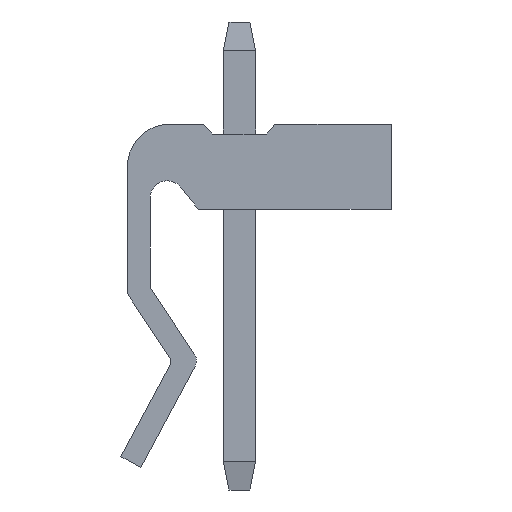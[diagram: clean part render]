
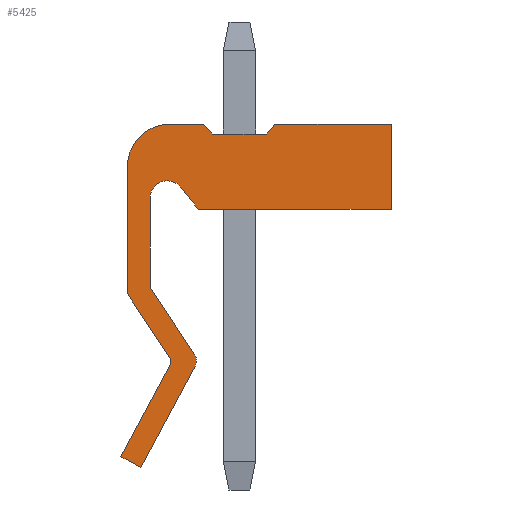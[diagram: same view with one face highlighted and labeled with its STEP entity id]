
A CAD part, front view. The second image highlights one B-rep face of the part: STEP entity #5425.
In plain terms, the highlighted planar face has unit normal (0, -1, 0).
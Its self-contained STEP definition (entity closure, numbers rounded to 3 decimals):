
#47=CIRCLE('',#5778,0.4);
#48=CIRCLE('',#5779,0.6);
#49=CIRCLE('',#5780,0.6);
#50=CIRCLE('',#5781,1.5);
#51=CIRCLE('',#5782,0.2);
#177=FACE_OUTER_BOUND('',#505,.T.);
#505=EDGE_LOOP('',(#3534,#3535,#3536,#3537,#3538,#3539,#3540,#3541,#3542,
#3543,#3544,#3545,#3546,#3547,#3548,#3549,#3550,#3551,#3552,#3553,#3554));
#895=LINE('',#7714,#1588);
#896=LINE('',#7716,#1589);
#897=LINE('',#7720,#1590);
#898=LINE('',#7722,#1591);
#899=LINE('',#7726,#1592);
#900=LINE('',#7730,#1593);
#901=LINE('',#7732,#1594);
#902=LINE('',#7734,#1595);
#903=LINE('',#7736,#1596);
#904=LINE('',#7738,#1597);
#905=LINE('',#7740,#1598);
#906=LINE('',#7742,#1599);
#907=LINE('',#7744,#1600);
#908=LINE('',#7748,#1601);
#909=LINE('',#7750,#1602);
#910=LINE('',#7753,#1603);
#1588=VECTOR('',#6250,10.);
#1589=VECTOR('',#6251,4.189);
#1590=VECTOR('',#6254,2.85);
#1591=VECTOR('',#6255,3.147);
#1592=VECTOR('',#6258,0.012);
#1593=VECTOR('',#6261,0.992);
#1594=VECTOR('',#6262,6.8);
#1595=VECTOR('',#6263,3.);
#1596=VECTOR('',#6264,4.08);
#1597=VECTOR('',#6265,0.461);
#1598=VECTOR('',#6266,1.9);
#1599=VECTOR('',#6267,0.461);
#1600=VECTOR('',#6268,1.22);
#1601=VECTOR('',#6271,4.487);
#1602=VECTOR('',#6272,2.732);
#1603=VECTOR('',#6275,3.831);
#2261=VERTEX_POINT('',#7712);
#2262=VERTEX_POINT('',#7713);
#2263=VERTEX_POINT('',#7715);
#2264=VERTEX_POINT('',#7717);
#2265=VERTEX_POINT('',#7719);
#2266=VERTEX_POINT('',#7721);
#2267=VERTEX_POINT('',#7723);
#2268=VERTEX_POINT('',#7725);
#2269=VERTEX_POINT('',#7727);
#2270=VERTEX_POINT('',#7729);
#2271=VERTEX_POINT('',#7731);
#2272=VERTEX_POINT('',#7733);
#2273=VERTEX_POINT('',#7735);
#2274=VERTEX_POINT('',#7737);
#2275=VERTEX_POINT('',#7739);
#2276=VERTEX_POINT('',#7741);
#2277=VERTEX_POINT('',#7743);
#2278=VERTEX_POINT('',#7745);
#2279=VERTEX_POINT('',#7747);
#2280=VERTEX_POINT('',#7749);
#2281=VERTEX_POINT('',#7751);
#2739=EDGE_CURVE('',#2261,#2262,#895,.T.);
#2740=EDGE_CURVE('',#2262,#2263,#896,.T.);
#2741=EDGE_CURVE('',#2264,#2263,#47,.T.);
#2742=EDGE_CURVE('',#2264,#2265,#897,.T.);
#2743=EDGE_CURVE('',#2265,#2266,#898,.T.);
#2744=EDGE_CURVE('',#2266,#2267,#48,.T.);
#2745=EDGE_CURVE('',#2267,#2268,#899,.T.);
#2746=EDGE_CURVE('',#2268,#2269,#49,.T.);
#2747=EDGE_CURVE('',#2269,#2270,#900,.T.);
#2748=EDGE_CURVE('',#2270,#2271,#901,.T.);
#2749=EDGE_CURVE('',#2271,#2272,#902,.T.);
#2750=EDGE_CURVE('',#2272,#2273,#903,.T.);
#2751=EDGE_CURVE('',#2273,#2274,#904,.T.);
#2752=EDGE_CURVE('',#2274,#2275,#905,.T.);
#2753=EDGE_CURVE('',#2275,#2276,#906,.T.);
#2754=EDGE_CURVE('',#2276,#2277,#907,.T.);
#2755=EDGE_CURVE('',#2278,#2277,#50,.T.);
#2756=EDGE_CURVE('',#2278,#2279,#908,.T.);
#2757=EDGE_CURVE('',#2279,#2280,#909,.T.);
#2758=EDGE_CURVE('',#2280,#2281,#51,.T.);
#2759=EDGE_CURVE('',#2281,#2261,#910,.T.);
#3534=ORIENTED_EDGE('',*,*,#2739,.T.);
#3535=ORIENTED_EDGE('',*,*,#2740,.T.);
#3536=ORIENTED_EDGE('',*,*,#2741,.F.);
#3537=ORIENTED_EDGE('',*,*,#2742,.T.);
#3538=ORIENTED_EDGE('',*,*,#2743,.T.);
#3539=ORIENTED_EDGE('',*,*,#2744,.T.);
#3540=ORIENTED_EDGE('',*,*,#2745,.T.);
#3541=ORIENTED_EDGE('',*,*,#2746,.T.);
#3542=ORIENTED_EDGE('',*,*,#2747,.T.);
#3543=ORIENTED_EDGE('',*,*,#2748,.T.);
#3544=ORIENTED_EDGE('',*,*,#2749,.T.);
#3545=ORIENTED_EDGE('',*,*,#2750,.T.);
#3546=ORIENTED_EDGE('',*,*,#2751,.T.);
#3547=ORIENTED_EDGE('',*,*,#2752,.T.);
#3548=ORIENTED_EDGE('',*,*,#2753,.T.);
#3549=ORIENTED_EDGE('',*,*,#2754,.T.);
#3550=ORIENTED_EDGE('',*,*,#2755,.F.);
#3551=ORIENTED_EDGE('',*,*,#2756,.T.);
#3552=ORIENTED_EDGE('',*,*,#2757,.T.);
#3553=ORIENTED_EDGE('',*,*,#2758,.T.);
#3554=ORIENTED_EDGE('',*,*,#2759,.T.);
#4943=PLANE('',#5777);
#5425=ADVANCED_FACE('',(#177),#4943,.T.);
#5777=AXIS2_PLACEMENT_3D('',#7711,#6248,#6249);
#5778=AXIS2_PLACEMENT_3D('',#7718,#6252,#6253);
#5779=AXIS2_PLACEMENT_3D('',#7724,#6256,#6257);
#5780=AXIS2_PLACEMENT_3D('',#7728,#6259,#6260);
#5781=AXIS2_PLACEMENT_3D('',#7746,#6269,#6270);
#5782=AXIS2_PLACEMENT_3D('',#7752,#6273,#6274);
#6248=DIRECTION('center_axis',(0.,-1.,0.));
#6249=DIRECTION('ref_axis',(0.,0.,-1.));
#6250=DIRECTION('',(0.881,0.,-0.473));
#6251=DIRECTION('',(0.473,0.,0.881));
#6252=DIRECTION('center_axis',(0.,1.,0.));
#6253=DIRECTION('ref_axis',(0.835,0.,0.55));
#6254=DIRECTION('',(-0.55,0.,0.835));
#6255=DIRECTION('',(0.,0.,1.));
#6256=DIRECTION('center_axis',(0.,1.,0.));
#6257=DIRECTION('ref_axis',(-1.,0.,0.));
#6258=DIRECTION('',(1.,0.,0.));
#6259=DIRECTION('center_axis',(0.,1.,0.));
#6260=DIRECTION('ref_axis',(0.,0.,
1.));
#6261=DIRECTION('',(0.625,0.,-0.781));
#6262=DIRECTION('',(1.,0.,0.));
#6263=DIRECTION('',(0.,0.,1.));
#6264=DIRECTION('',(-1.,0.,0.));
#6265=DIRECTION('',(-0.651,0.,-0.759));
#6266=DIRECTION('',(-1.,0.,0.));
#6267=DIRECTION('',(-0.651,0.,0.759));
#6268=DIRECTION('',(-1.,0.,0.));
#6269=DIRECTION('center_axis',(0.,1.,0.));
#6270=DIRECTION('ref_axis',(-1.,0.,0.));
#6271=DIRECTION('',(0.,0.,-1.));
#6272=DIRECTION('',(0.55,0.,-0.835));
#6273=DIRECTION('center_axis',(0.,1.,0.));
#6274=DIRECTION('ref_axis',(0.835,0.,0.55));
#6275=DIRECTION('',(-0.473,0.,-0.881));
#7711=CARTESIAN_POINT('Origin',(-13.67,-18.363,23.723));
#7712=CARTESIAN_POINT('',(-13.544,-18.363,18.152));
#7713=CARTESIAN_POINT('',(-12.839,-18.363,17.773));
#7714=CARTESIAN_POINT('',(-14.948,-18.363,18.906));
#7715=CARTESIAN_POINT('',(-10.925,-18.363,21.337));
#7716=CARTESIAN_POINT('',(-12.907,-18.363,17.647));
#7717=CARTESIAN_POINT('',(-10.943,-18.363,21.746));
#7718=CARTESIAN_POINT('Origin',(-11.277,-18.363,21.526));
#7719=CARTESIAN_POINT('',(-12.512,-18.363,24.126));
#7720=CARTESIAN_POINT('',(-10.943,-18.363,21.746));
#7721=CARTESIAN_POINT('',(-12.512,-18.363,27.273));
#7722=CARTESIAN_POINT('',(-12.512,-18.363,24.126));
#7723=CARTESIAN_POINT('',(-11.912,-18.363,27.873));
#7724=CARTESIAN_POINT('Origin',(-11.912,-18.363,27.273));
#7725=CARTESIAN_POINT('',(-11.9,-18.363,27.873));
#7726=CARTESIAN_POINT('',(-11.912,-18.363,27.873));
#7727=CARTESIAN_POINT('',(-11.432,-18.363,27.648));
#7728=CARTESIAN_POINT('Origin',(-11.9,-18.363,27.273));
#7729=CARTESIAN_POINT('',(-10.812,-18.363,26.873));
#7730=CARTESIAN_POINT('',(-11.432,-18.363,27.648));
#7731=CARTESIAN_POINT('',(-4.012,-18.363,26.873));
#7732=CARTESIAN_POINT('',(-10.812,-18.363,26.873));
#7733=CARTESIAN_POINT('',(-4.012,-18.363,29.873));
#7734=CARTESIAN_POINT('',(-4.012,-18.363,26.873));
#7735=CARTESIAN_POINT('',(-8.112,-18.363,29.873));
#7736=CARTESIAN_POINT('',(-4.012,-18.363,29.873));
#7737=CARTESIAN_POINT('',(-8.412,-18.363,29.523));
#7738=CARTESIAN_POINT('',(-8.112,-18.363,29.873));
#7739=CARTESIAN_POINT('',(-10.312,-18.363,29.523));
#7740=CARTESIAN_POINT('',(-8.412,-18.363,29.523));
#7741=CARTESIAN_POINT('',(-10.612,-18.363,29.873));
#7742=CARTESIAN_POINT('',(-10.312,-18.363,29.523));
#7743=CARTESIAN_POINT('',(-11.812,-18.363,29.873));
#7744=CARTESIAN_POINT('',(-10.592,-18.363,29.873));
#7745=CARTESIAN_POINT('',(-13.312,-18.363,28.373));
#7746=CARTESIAN_POINT('Origin',(-11.812,-18.363,28.373));
#7747=CARTESIAN_POINT('',(-13.312,-18.363,23.886));
#7748=CARTESIAN_POINT('',(-13.312,-18.363,28.373));
#7749=CARTESIAN_POINT('',(-11.808,-18.363,21.605));
#7750=CARTESIAN_POINT('',(-13.312,-18.363,23.886));
#7751=CARTESIAN_POINT('',(-11.799,-18.363,21.4));
#7752=CARTESIAN_POINT('Origin',(-11.975,-18.363,21.495));
#7753=CARTESIAN_POINT('',(-11.799,-18.363,21.4));
